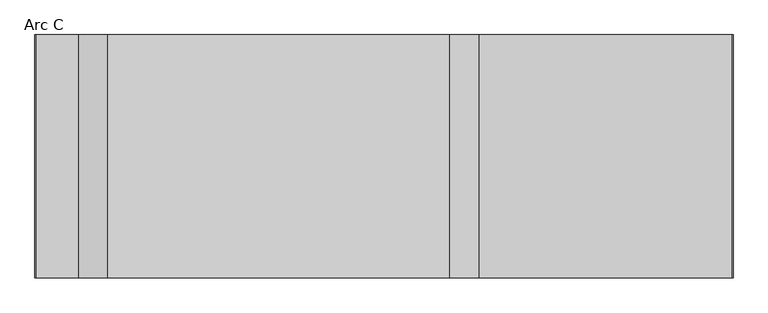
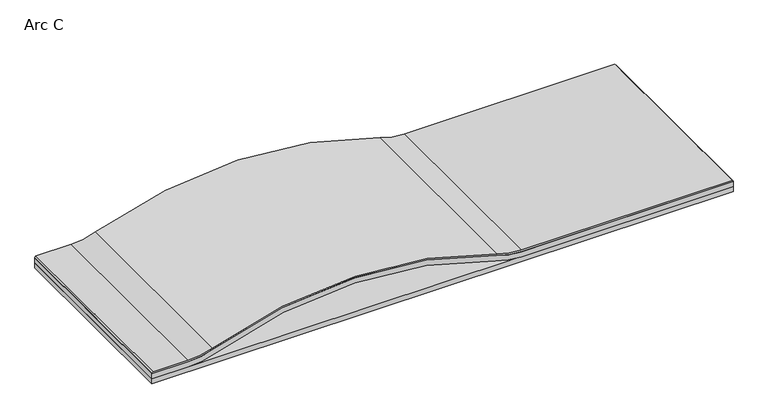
"""IFC4 building model written with IfcOpenShell, lengths in millimetres: proxy geometry, FilzFelt_Arc : Arc C."""

from ifc_helpers import new_model, si_unit, point, frame, frame_2d, origin, origin_with_axes, place, context, project, spatial, polyline, circle_curve, trimmed, segment, composite_curve, outline, extrude, source, transform, mapped, element, save


def arc_c_3215f3ed(model_context):
    return source(origin(), model_context, "Body", "SweptSolid", [
        extrude(outline(composite_curve([segment(trimmed(circle_curve(frame_2d((-667.2995118, -165.1)), 735.3715118), [point((19.193783, -428.725144))], [point((19.1533167, 98.6304962))], True, "CARTESIAN"), True, "CONTINUOUS"), segment(trimmed(circle_curve(frame_2d((146.952, 147.7298789)), 136.906), [point((19.1533167, 98.6304962))], [point((10.046, 147.7298789))], False, "CARTESIAN"), True, "CONTINUOUS"), segment(polyline([(10.046, 147.7298789), (10.046, 546.1), (19.952, 546.1), (19.952, 147.7298789)]), True, "CONTINUOUS"), segment(trimmed(circle_curve(frame_2d((146.952, 147.7298789)), 127.0), [point((19.952, 147.7298789))], [point((28.4003457, 102.1831417))], True, "CARTESIAN"), True, "CONTINUOUS"), segment(trimmed(circle_curve(frame_2d((-667.2995118, -165.1)), 745.2775118), [point((28.4003457, 102.1831417))], [point((28.4003457, -432.3831417))], False, "CARTESIAN"), True, "CONTINUOUS"), segment(trimmed(circle_curve(frame_2d((146.952, -477.9298789)), 127.0), [point((28.4003457, -432.3831417))], [point((19.952, -477.9298789))], True, "CARTESIAN"), True, "CONTINUOUS"), segment(polyline([(19.952, -477.9298789), (19.952, -546.1), (10.094, -546.1), (10.094, -477.8049131)]), True, "CONTINUOUS"), segment(trimmed(circle_curve(frame_2d((147.0, -477.8049131)), 136.906), [point((10.094, -477.8049131))], [point((19.193783, -428.725144))], False, "CARTESIAN"), True, "CONTINUOUS")], self_intersect=False)), frame((0.0, -190.5, 0.0), z_axis=(0.0, 1.0, 0.0), x_axis=(0.0, 0.0, 1.0)), (0.0, 0.0, 1.0), 381.0),
        extrude(outline(composite_curve([segment(trimmed(circle_curve(frame_2d((-667.2995118, -165.1)), 748.3255118), [point((31.4189275, 102.8246428))], [point((31.4189275, -433.0246428))], False, "CARTESIAN"), True, "CONTINUOUS"), segment(trimmed(circle_curve(frame_2d((150.0, -478.4947345)), 127.0), [point((31.4189275, -433.0246428))], [point((23.0, -478.4947345))], True, "CARTESIAN"), True, "CONTINUOUS"), segment(polyline([(23.0, -478.4947345), (23.0, -544.1), (21.0, -546.1), (19.952, -546.1), (19.952, -477.9298789)]), True, "CONTINUOUS"), segment(trimmed(circle_curve(frame_2d((146.952, -477.9298789)), 127.0), [point((19.952, -477.9298789))], [point((28.4003457, -432.3831417))], False, "CARTESIAN"), True, "CONTINUOUS"), segment(trimmed(circle_curve(frame_2d((-667.2995118, -165.1)), 745.2775118), [point((28.4003457, -432.3831417))], [point((28.4003457, 102.1831417))], True, "CARTESIAN"), True, "CONTINUOUS"), segment(trimmed(circle_curve(frame_2d((146.952, 147.7298789)), 127.0), [point((28.4003457, 102.1831417))], [point((19.952, 147.7298789))], False, "CARTESIAN"), True, "CONTINUOUS"), segment(polyline([(19.952, 147.7298789), (19.952, 546.1), (21.0, 546.1), (23.0, 544.1), (23.0, 148.2947345)]), True, "CONTINUOUS"), segment(trimmed(circle_curve(frame_2d((150.0, 148.2947345)), 127.0), [point((23.0, 148.2947345))], [point((31.4189275, 102.8246428))], True, "CARTESIAN"), True, "CONTINUOUS")], self_intersect=False)), frame((0.0, -190.5, 0.0), z_axis=(0.0, 1.0, 0.0), x_axis=(0.0, 0.0, 1.0)), (0.0, 0.0, 1.0), 381.0),
        extrude(outline(polyline([(546.1, -190.5), (-546.1, -190.5), (-546.1, 190.5), (546.1, 190.5), (546.1, -190.5)])), origin_with_axes(), (0.0, 0.0, 1.0), 10.0),
    ])


if __name__ == "__main__":
    model = new_model("IFC4")
    model_context = context("Model", 3, world=origin())
    ifc_project = project(units=[si_unit("LENGTHUNIT", "METRE", prefix="MILLI")], contexts=[model_context])
    site = spatial("IfcSite", under=ifc_project)
    building = spatial("IfcBuilding", under=site)
    placement = place(None, origin())
    arc_c_shape = arc_c_3215f3ed(model_context)
    element("IfcBuildingElementProxy", 1, Name="FilzFelt_Arc : Arc C", ObjectType="FilzFelt_Arc : Arc C", at=placement, inside=building, context=model_context, shape_type="MappedRepresentation", body=[
        mapped(arc_c_shape, transform((0.0, 0.0, 0.0), x_axis=(1.0, 0.0, 0.0), y_axis=(0.0, 1.0, 0.0), z_axis=(0.0, 0.0, 1.0))),
    ])
    save(model, "model.ifc")
